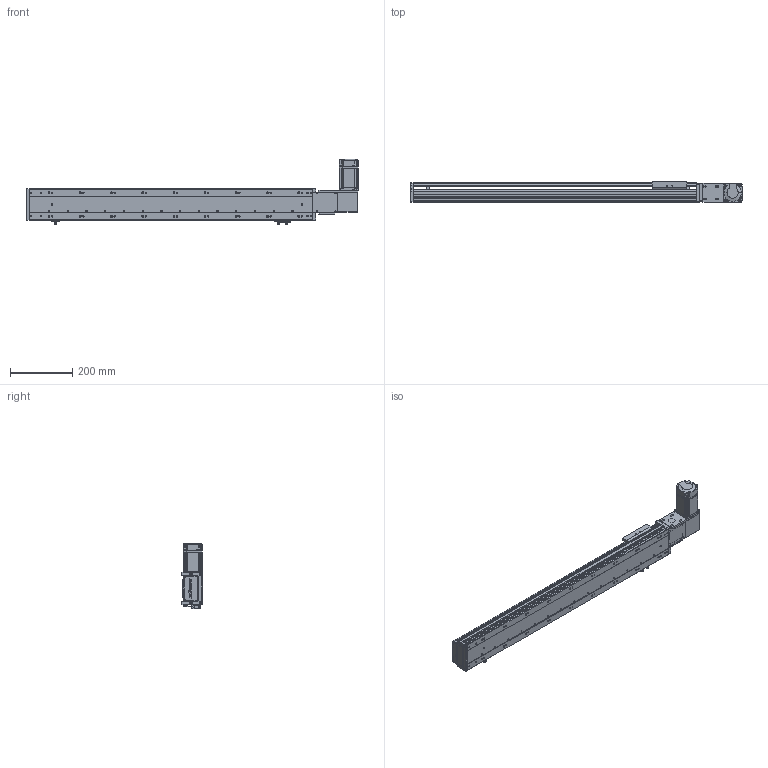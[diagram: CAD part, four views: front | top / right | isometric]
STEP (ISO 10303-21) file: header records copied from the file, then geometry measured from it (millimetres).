
FILE_DESCRIPTION (( 'STEP AP203' ), '1' );
FILE_NAME ('RY100-T-300-RK.SLDASM_700.step', '2024-04-25T08:22:08', ( '盈信电脑' ), ( '东莞市道滘镇水果街19号' ), 'SwSTEP 2.0', 'SolidWorks 2016', '' );
FILE_SCHEMA (( 'CONFIG_CONTROL_DESIGN' ));
Length unit declared in the file: millimetre
Products named in the file (15): 覜茼ん672; RY100-T左右折电机安装板; RY80-T肮祭謫俋欶; RY100-T粣創揤踡裔; 滅袉蝶18-10; 1; RY100-T肮祭謫翋盓傅釱; RY100-T肮祭謫臏賑輸; RY100-T翋肮祭謫裔啣2; RY100-T-300-RK倰第奻裔_700; 侂狟200W萇儂; RY100-T-300-RK倰第菁釱_700; RY100-T-300-RK.SLDASM_700; RY100綴裔啣; RY100俋离覜茼え
Assembly tree (18 placements, depth 3):
  RY100-T-300-RK.SLDASM_700
    RY100-T-300-RK倰第菁釱_700
    RY100-T-300-RK倰第奻裔_700
    RY100-T肮祭謫臏賑輸
    RY100綴裔啣
    覜茼ん672  x3
    RY100俋离覜茼え
    RY100-T肮祭謫翋盓傅釱
    RY100-T左右折电机安装板
    侂狟200W萇儂
      1
    RY100-T粣創揤踡裔
    滅袉蝶18-10  x2
    RY100-T翋肮祭謫裔啣2  x2
    RY80-T肮祭謫俋欶
Bounding box: 1064 x 66 x 209.7 mm (x, y, z)
Volume: 2143075.6 mm3; surface area: 867449.7 mm2
Topology: 17 solids, 17 shells, 2217 faces, 6187 edges, 4023 vertices
Faces by surface type: plane 1197, cylinder 807, cone 135, bspline 78
Entity records: 71269 total; most frequent: CARTESIAN_POINT 17407, ORIENTED_EDGE 11110, DIRECTION 10535, EDGE_CURVE 5555, VERTEX_POINT 3659, VECTOR 3571, LINE 3571, AXIS2_PLACEMENT_3D 3482
